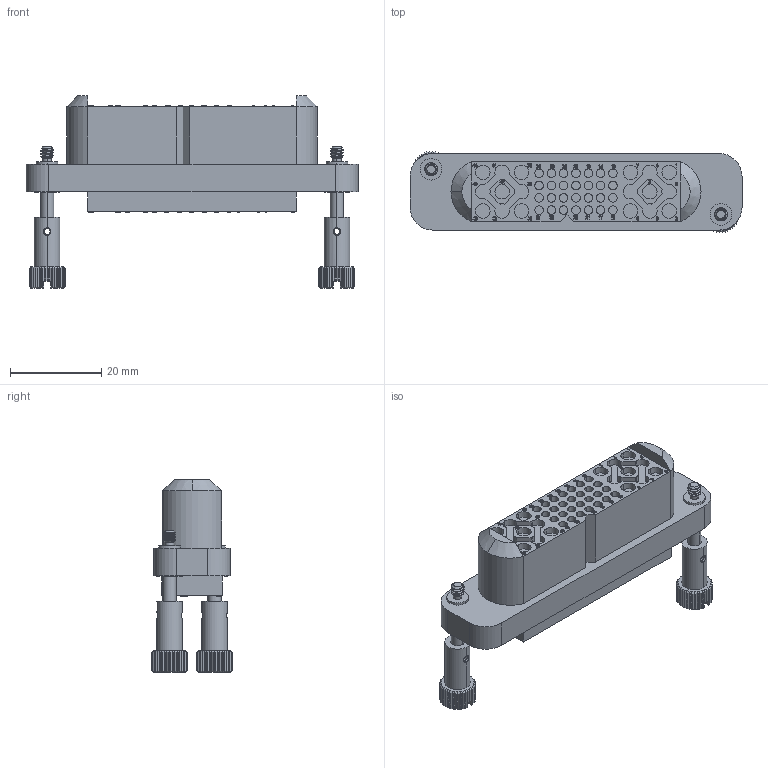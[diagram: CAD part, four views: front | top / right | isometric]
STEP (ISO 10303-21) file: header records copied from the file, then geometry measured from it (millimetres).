
FILE_DESCRIPTION (( 'STEP AP203' ), '1' );
FILE_NAME ('GFSH928F1E.STEP', '2025-01-10T11:05:58', ( '' ), ( '' ), 'SwSTEP 2.0', 'SolidWorks 2021', '' );
FILE_SCHEMA (( 'CONFIG_CONTROL_DESIGN' ));
Length unit declared in the file: millimetre
Products named in the file (1): GFSH928F1E
Bounding box: 72.86 x 17.8 x 42.29 mm (x, y, z)
Volume: 18754.4 mm3; surface area: 8580.1 mm2
Topology: 1 solids, 1 shells, 2318 faces, 6126 edges, 4050 vertices
Faces by surface type: plane 1146, bspline 793, cylinder 320, cone 59
Entity records: 123375 total; most frequent: CARTESIAN_POINT 71560, ORIENTED_EDGE 12244, DIRECTION 7796, EDGE_CURVE 6122, VERTEX_POINT 4050, VECTOR 3460, LINE 3460, EDGE_LOOP 2578
